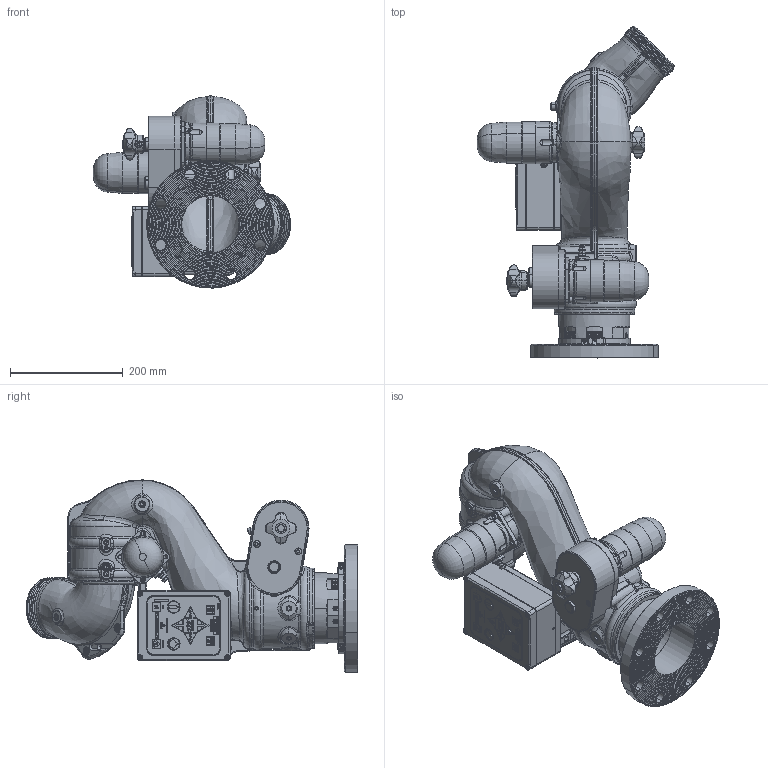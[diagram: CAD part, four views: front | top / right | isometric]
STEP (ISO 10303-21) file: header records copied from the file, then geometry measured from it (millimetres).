
FILE_DESCRIPTION (( 'STEP AP203' ), '1' );
FILE_NAME ('Y5-E21A-L_45_Up.STEP', '2016-06-08T11:51:35', ( '' ), ( '' ), 'SwSTEP 2.0', 'SolidWorks 2015', '' );
FILE_SCHEMA (( 'CONFIG_CONTROL_DESIGN' ));
Products named in the file (1): Y5-E21A-L_45_Up
Bounding box: 349.33 x 587.66 x 340.38 mm (x, y, z)
Surface area: 863990.6 mm2 (no closed solid volume)
Topology: 0 solids, 213 shells, 2458 faces, 10454 edges, 8055 vertices
Faces by surface type: plane 712, cylinder 492, torus 459, bspline 409, cone 344, sphere 42
Entity records: 205745 total; most frequent: CARTESIAN_POINT 127752, ORIENTED_EDGE 15311, DIRECTION 13990, EDGE_CURVE 10449, VERTEX_POINT 8055, AXIS2_PLACEMENT_3D 4738, VECTOR 4514, LINE 4514
